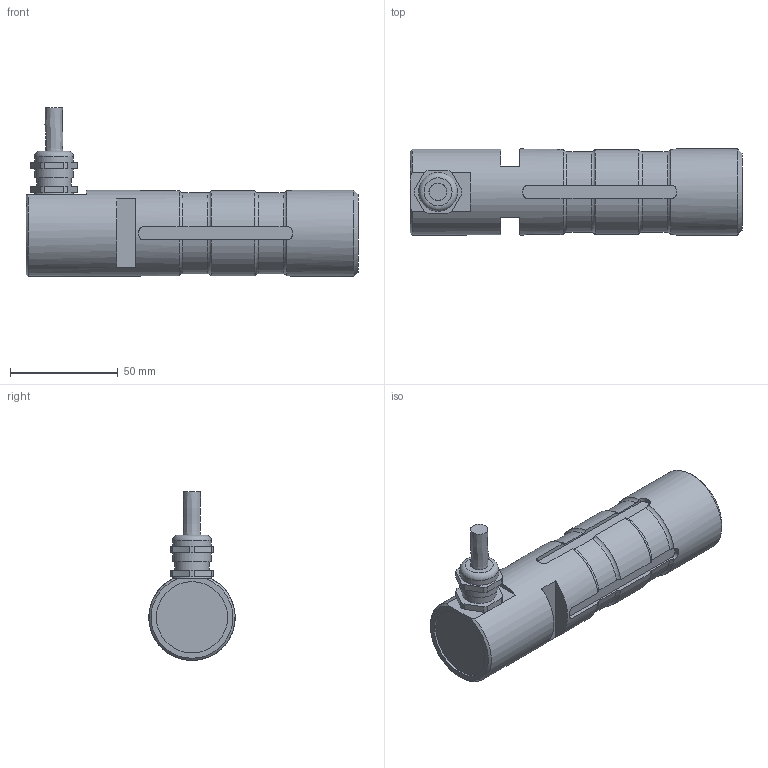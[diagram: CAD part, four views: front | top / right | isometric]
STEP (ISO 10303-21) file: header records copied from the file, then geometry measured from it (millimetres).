
FILE_DESCRIPTION(/* description */ ('Alibre Inc.'),/* implementation_level */ '2;1');
FILE_NAME(/* name */ 'export0',/* time_stamp */ '2012-05-21T08:19:48+02:00',/* author */ (''),/* organization */ (''),/* preprocessor_version */ 'ST-DEVELOPER v10',/* originating_system */ 'Alibre',/* authorisation */ '');
FILE_SCHEMA (('CONFIG_CONTROL_DESIGN'));
Length unit declared in the file: centimetre
Products named in the file (6): ID_1; ID_2; ID_3
Bounding box: 154 x 40 x 78.31 mm (x, y, z)
Volume: 186187.8 mm3; surface area: 27709.3 mm2
Topology: 4 solids, 4 shells, 170 faces, 448 edges, 297 vertices
Faces by surface type: plane 90, cylinder 58, torus 18, cone 3, bspline 1
Full cylindrical faces by diameter (mm): 8 x1, 10 x1, 14.376 x1, 16 x2, 18 x2, 33 x1, 40 x2
Entity records: 6082 total; most frequent: CARTESIAN_POINT 1724, ORIENTED_EDGE 862, DIRECTION 611, EDGE_CURVE 431, VERTEX_POINT 295, VECTOR 255, LINE 255, AXIS2_PLACEMENT_3D 223
